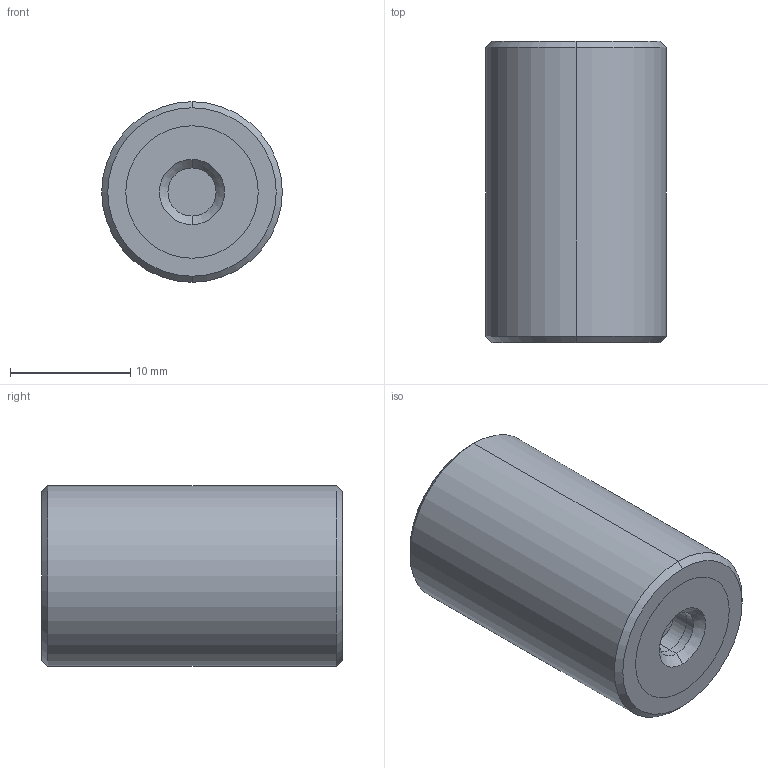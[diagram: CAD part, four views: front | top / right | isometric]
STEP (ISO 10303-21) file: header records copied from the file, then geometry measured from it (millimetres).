
FILE_DESCRIPTION (( 'STEP AP203' ), '1' );
FILE_NAME ('Default.step', '2018-07-16T20:41:23', ( '' ), ( '' ), 'SwSTEP 2.0', 'SolidWorks 2017', '' );
FILE_SCHEMA (( 'CONFIG_CONTROL_DESIGN' ));
Length unit declared in the file: millimetre
Products named in the file (4): Default; Part3; Part1; Part2
Assembly tree (3 placements, depth 2):
  Default
    Part1
    Part2
    Part3
Bounding box: 15 x 25 x 15 mm (x, y, z)
Volume: 4324.1 mm3; surface area: 2106.9 mm2
Topology: 3 solids, 3 shells, 36 faces, 70 edges, 44 vertices
Faces by surface type: cylinder 18, plane 10, cone 8
Entity records: 1356 total; most frequent: DIRECTION 198, CARTESIAN_POINT 156, ORIENTED_EDGE 140, AXIS2_PLACEMENT_3D 86, EDGE_CURVE 70, EDGE_LOOP 44, CIRCLE 44, VERTEX_POINT 44
